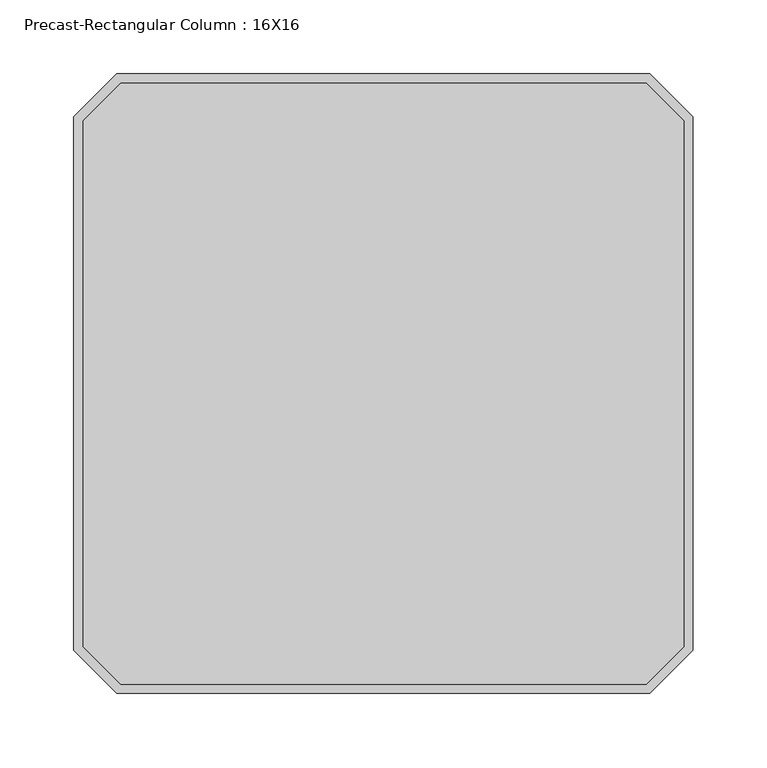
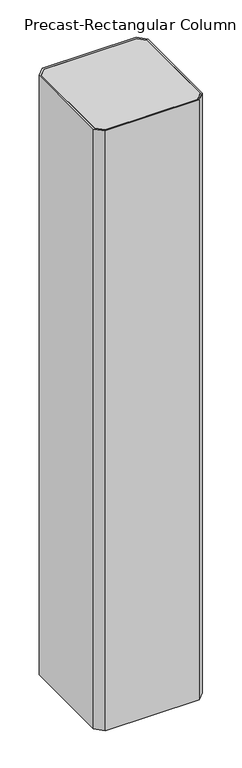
"""IFC4 building model written with IfcOpenShell, lengths in millimetres: column geometry, Precast-Rectangular Column : 16X16."""

from ifc_helpers import new_model, si_unit, origin, origin_with_axes, place, context, project, spatial, polyline, outline, extrude, source, transform, mapped, element, save


def precast_rectangular_column_16x16_4fcb2295(model_context):
    return source(origin(), model_context, "Body", "SweptSolid", [
        extrude(outline(polyline([(-180.4302561, 209.55), (180.4302561, 209.55), (209.55, 180.4302561), (209.55, -180.4302561), (180.4302561, -209.55), (-180.4302561, -209.55), (-209.55, -180.4302561), (-209.55, 180.4302561), (-180.4302561, 209.55)]), holes=[polyline([(-177.8, 203.2), (-203.2, 177.8), (-203.2, -177.8), (-177.8, -203.2), (177.8, -203.2), (203.2, -177.8), (203.2, 177.8), (177.8, 203.2), (-177.8, 203.2)])]), origin_with_axes(), (0.0, 0.0, 1.0), 2438.4),
        extrude(outline(polyline([(177.8, 203.2), (203.2, 177.8), (203.2, -177.8), (177.8, -203.2), (-177.8, -203.2), (-203.2, -177.8), (-203.2, 177.8), (-177.8, 203.2), (177.8, 203.2)])), origin_with_axes(), (0.0, 0.0, 1.0), 2438.4),
    ])


if __name__ == "__main__":
    model = new_model("IFC4")
    model_context = context("Model", 3, world=origin())
    ifc_project = project(units=[si_unit("LENGTHUNIT", "METRE", prefix="MILLI")], contexts=[model_context])
    site = spatial("IfcSite", under=ifc_project)
    building = spatial("IfcBuilding", under=site)
    placement = place(None, origin())
    precast_rectangular_column_16x16_shape = precast_rectangular_column_16x16_4fcb2295(model_context)
    element("IfcColumn", 1, ObjectType="Precast-Rectangular Column : 16X16", at=placement, inside=building, context=model_context, shape_type="MappedRepresentation", body=[
        mapped(precast_rectangular_column_16x16_shape, transform((0.0, 0.0, 0.0), x_axis=(1.0, 0.0, 0.0), y_axis=(0.0, 1.0, 0.0), z_axis=(0.0, 0.0, 1.0))),
    ])
    save(model, "model.ifc")
